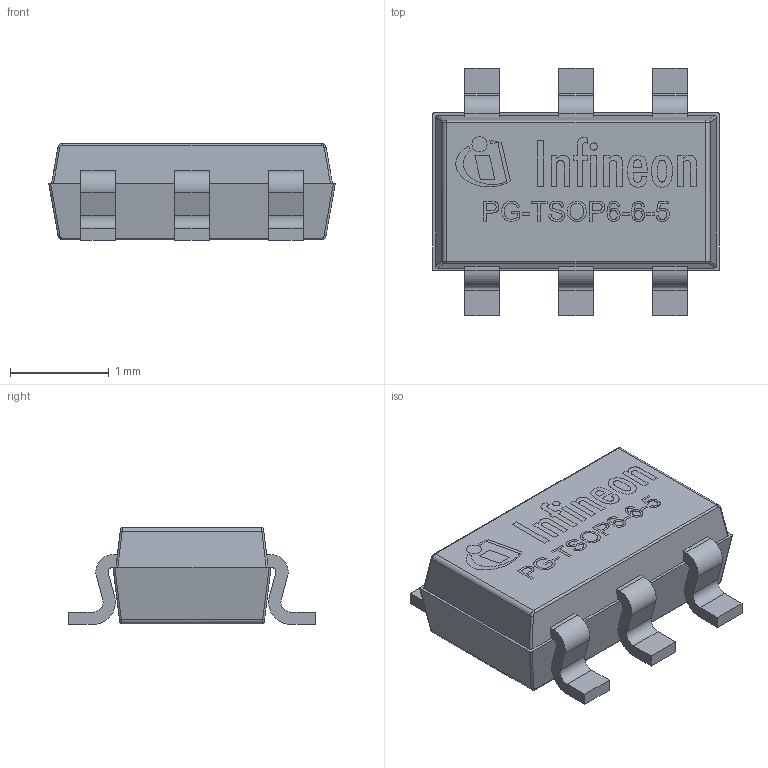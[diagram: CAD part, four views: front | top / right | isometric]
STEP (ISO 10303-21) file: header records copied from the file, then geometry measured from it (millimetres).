
FILE_DESCRIPTION(/* description */ (''),/* implementation_level */ '2;1');
FILE_NAME(/* name */ 'Z:\09_HeppnerHeiko\Aufbau 3D Datenbank\10_to check RBG\PG-TSOP6-6-5_Customer Outline 3D.stp',/* time_stamp */ '2020-02-28T13:10:45+01:00',/* author */ ('heppnerh'),/* organization */ (''),/* preprocessor_version */ 'ST-DEVELOPER v17',/* originating_system */ 'Autodesk Inventor 2018',/* authorisation */ '');
FILE_SCHEMA (('AUTOMOTIVE_DESIGN { 1 0 10303 214 3 1 1 }'));
Length unit declared in the file: millimetre
Products named in the file (1): Z8B00201423
Bounding box: 2.9 x 2.5 x 0.98 mm (x, y, z)
Volume: 4.4 mm3; surface area: 22.1 mm2
Topology: 1 solids, 1 shells, 143 faces, 639 edges, 529 vertices
Faces by surface type: plane 95, cylinder 40, bspline 8
Entity records: 7668 total; most frequent: CARTESIAN_POINT 2015, ORIENTED_EDGE 1278, DIRECTION 1034, EDGE_CURVE 639, VERTEX_POINT 529, LINE 352, VECTOR 352, AXIS2_PLACEMENT_3D 341
